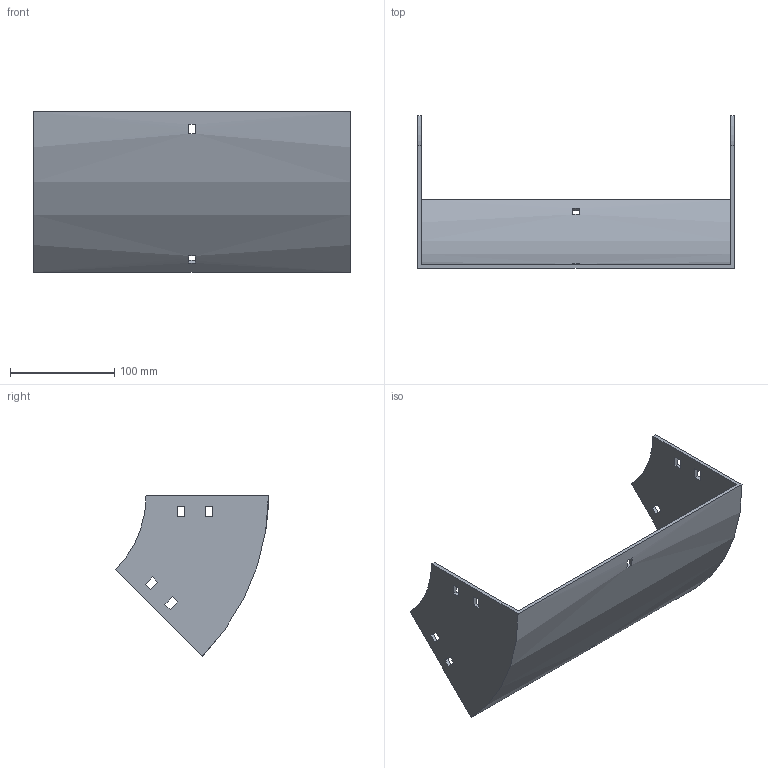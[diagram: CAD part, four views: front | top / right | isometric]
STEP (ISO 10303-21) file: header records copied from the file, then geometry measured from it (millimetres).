
FILE_DESCRIPTION (( 'STEP AP214' ), '1' );
FILE_NAME ('31B1J300.step', '2025-02-21T09:46:09', ( '' ), ( '' ), 'SwSTEP 2.0', 'SolidWorks 2023', '' );
FILE_SCHEMA (( 'AUTOMOTIVE_DESIGN' ));
Length unit declared in the file: millimetre
Products named in the file (1): 31B1J300
Bounding box: 304 x 146.79 x 153.8 mm (x, y, z)
Volume: 276323.1 mm3; surface area: 163352 mm2
Topology: 1 solids, 1 shells, 50 faces, 144 edges, 96 vertices
Faces by surface type: plane 46, cylinder 4
Entity records: 1687 total; most frequent: CARTESIAN_POINT 291, ORIENTED_EDGE 288, DIRECTION 262, EDGE_CURVE 144, LINE 128, VECTOR 128, VERTEX_POINT 96, EDGE_LOOP 70
